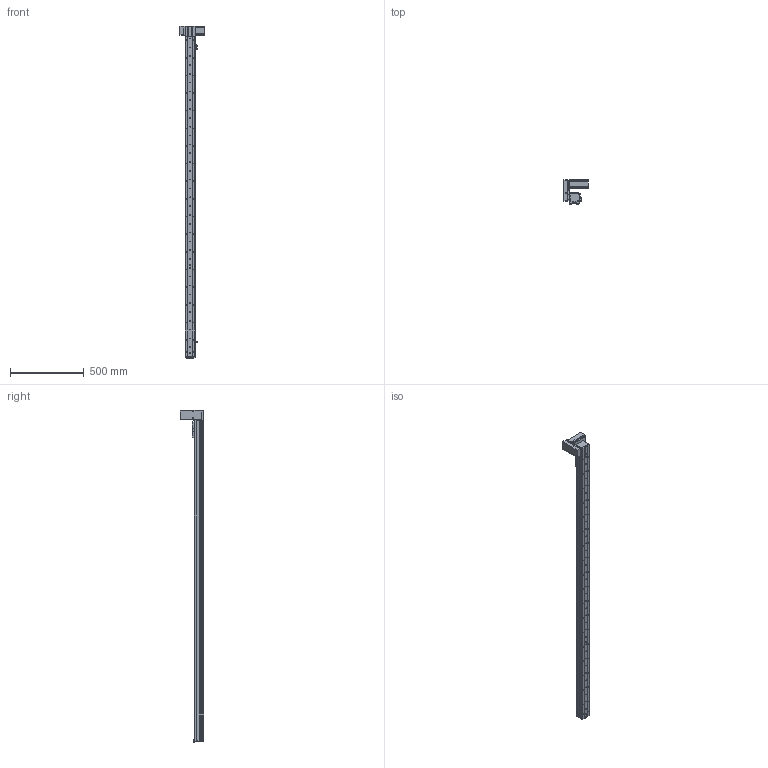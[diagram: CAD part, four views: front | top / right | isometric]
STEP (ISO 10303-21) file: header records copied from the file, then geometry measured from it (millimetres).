
FILE_DESCRIPTION (( 'STEP AP214' ), '1' );
FILE_NAME ('KSD68BS-S2000-MRU-CR.STEP', '2019-08-29T01:11:04', ( '微软用户' ), ( '微软中国' ), 'SwSTEP 2.0', 'SolidWorks 2014', '' );
FILE_SCHEMA (( 'AUTOMOTIVE_DESIGN' ));
Length unit declared in the file: millimetre
Products named in the file (14): 悵誘欶奻狟殏; 68宽马达安装板连板上折同步带; KSD68BS 2000行程盖板全封闭; 感应片68宽全封闭; U倰嫖萇EEㄜSX672; 台达ECMA－C20604AS伺服电机（400W); KSD68BS 2000行程底板全封闭; KSD68BS-S2000-MRU-CR; 68遵裔啣揤啣1; 68宽单导轨全封闭丝杆传动安装板1防护罩; KSD68BS 2000行程侧板全封闭; 68宽单导轨全封闭同步带端板; 68单导轨全封闭同步带电机座右; 68单导轨全封闭同步带安装板
Assembly tree (17 placements, depth 2):
  KSD68BS-S2000-MRU-CR
    KSD68BS 2000行程底板全封闭
    台达ECMA－C20604AS伺服电机（400W)
    U倰嫖萇EEㄜSX672  x3
    感应片68宽全封闭
    68宽马达安装板连板上折同步带
    悵誘欶奻狟殏
    68单导轨全封闭同步带安装板
    68单导轨全封闭同步带电机座右
    68宽单导轨全封闭同步带端板
    KSD68BS 2000行程侧板全封闭  x2
    68宽单导轨全封闭丝杆传动安装板1防护罩
    68遵裔啣揤啣1  x2
    KSD68BS 2000行程盖板全封闭
Bounding box: 167.2 x 159.5 x 2258.1 mm (x, y, z)
Volume: 3884701.1 mm3; surface area: 1607432.2 mm2
Topology: 18 solids, 18 shells, 1668 faces, 4841 edges, 3077 vertices
Faces by surface type: cylinder 833, plane 631, cone 204
Entity records: 55290 total; most frequent: CARTESIAN_POINT 9659, DIRECTION 8209, ORIENTED_EDGE 7854, EDGE_CURVE 3927, AXIS2_PLACEMENT_3D 3009, VERTEX_POINT 2575, LINE 2191, VECTOR 2191
